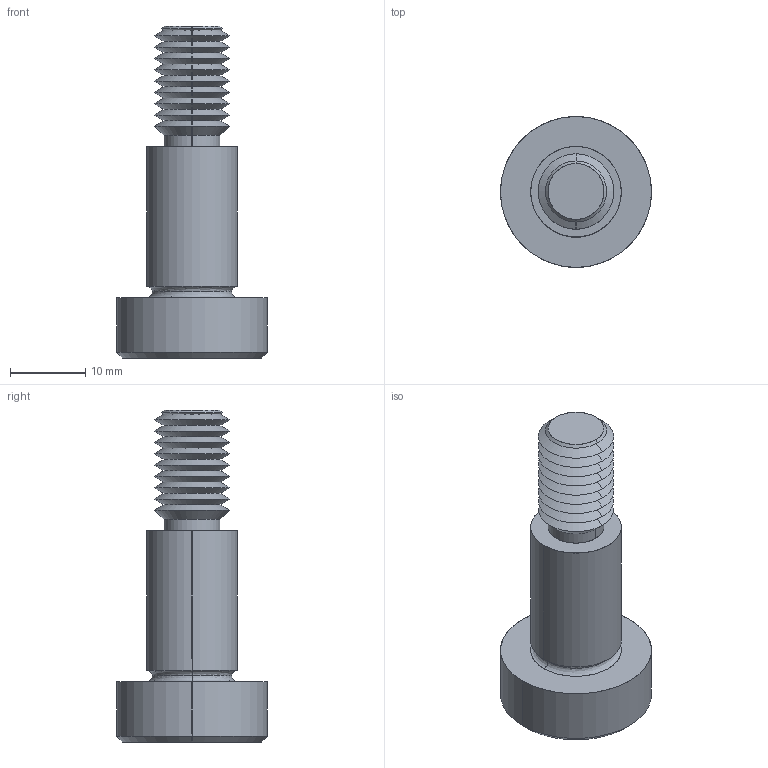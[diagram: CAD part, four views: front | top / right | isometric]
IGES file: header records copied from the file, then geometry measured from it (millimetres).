
Start section: SolidWorks IGES file using analytic representation for surfaces
Global section: file name: C:\Users\IanO\Documents\Temp Folder\GENERAL\SCREW REVISION\P0130_v2\P0130.T5_v2_20220106_IGES\P0130.120-020-T5.igs; native system: SolidWorks 2019; preprocessor: SolidWorks 2019; author: IanO; date: 220106.224641; units: millimetre
Bounding box: 20 x 20 x 44 mm (x, y, z)
Surface area: 2808.4 mm2 (no closed solid volume)
Topology: 0 solids, 0 shells, 76 faces, 564 edges, 562 vertices
Faces by surface type: revolution 56, bspline 20
